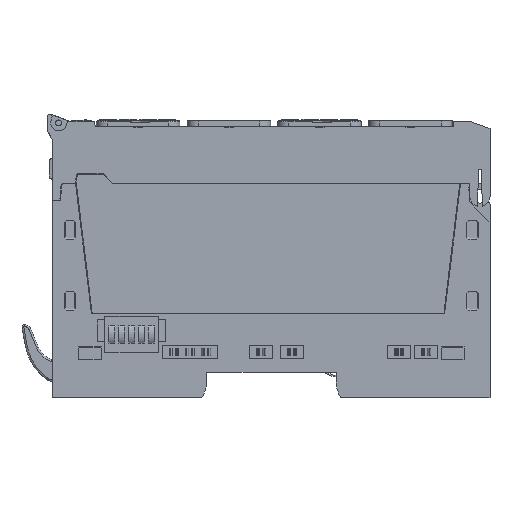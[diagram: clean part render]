
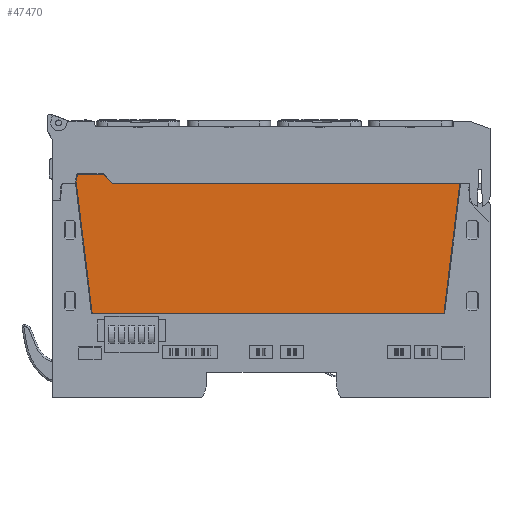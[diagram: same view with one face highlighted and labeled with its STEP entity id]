
A CAD part, top view. The second image highlights one B-rep face of the part: STEP entity #47470.
In plain terms, the highlighted planar face has unit normal (0, 0, 1).
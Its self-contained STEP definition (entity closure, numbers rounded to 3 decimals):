
#47410=AXIS2_PLACEMENT_3D('Plane Axis2P3D',#47407,#47408,#47409) ;
#47442=AXIS2_PLACEMENT_3D('Circle Axis2P3D',#47440,#47441,$) ;
#43610=CARTESIAN_POINT('Vertex',(47.15,16.1,11.5)) ;
#43613=CARTESIAN_POINT('Line Origine',(-0.9,16.1,11.5)) ;
#43617=CARTESIAN_POINT('Vertex',(-48.95,16.1,11.5)) ;
#47385=CARTESIAN_POINT('Vertex',(51.497,51.5,11.5)) ;
#47388=CARTESIAN_POINT('Line Origine',(49.323,33.8,11.5)) ;
#47407=CARTESIAN_POINT('Axis2P3D Location',(0.,0.,11.5)) ;
#47412=CARTESIAN_POINT('Line Origine',(-51.123,33.8,11.5)) ;
#47416=CARTESIAN_POINT('Vertex',(-53.297,51.5,11.5)) ;
#47419=CARTESIAN_POINT('Line Origine',(4.05,51.5,11.5)) ;
#47423=CARTESIAN_POINT('Vertex',(-43.396,51.5,11.5)) ;
#47426=CARTESIAN_POINT('Line Origine',(-44.684,52.8,11.5)) ;
#47430=CARTESIAN_POINT('Vertex',(-45.971,54.1,11.5)) ;
#47433=CARTESIAN_POINT('Line Origine',(-49.265,54.1,11.5)) ;
#47437=CARTESIAN_POINT('Vertex',(-52.558,54.1,11.5)) ;
#47440=CARTESIAN_POINT('Axis2P3D Location',(-52.558,53.6,11.5)) ;
#47444=CARTESIAN_POINT('Vertex',(-53.051,53.686,11.5)) ;
#47447=CARTESIAN_POINT('Line Origine',(-53.174,52.982,11.5)) ;
#47451=CARTESIAN_POINT('Vertex',(-53.297,52.277,11.5)) ;
#47454=CARTESIAN_POINT('Line Origine',(-53.297,51.889,11.5)) ;
#43614=DIRECTION('Vector Direction',(-1.,0.,0.)) ;
#47389=DIRECTION('Vector Direction',(0.122,0.993,0.)) ;
#47408=DIRECTION('Axis2P3D Direction',(0.,0.,1.)) ;
#47409=DIRECTION('Axis2P3D XDirection',(1.,0.,0.)) ;
#47413=DIRECTION('Vector Direction',(0.122,-0.993,0.)) ;
#47420=DIRECTION('Vector Direction',(1.,0.,0.)) ;
#47427=DIRECTION('Vector Direction',(-0.704,0.71,0.)) ;
#47434=DIRECTION('Vector Direction',(-1.,0.,0.)) ;
#47441=DIRECTION('Axis2P3D Direction',(0.,0.,1.)) ;
#47448=DIRECTION('Vector Direction',(-0.172,-0.985,0.)) ;
#47455=DIRECTION('Vector Direction',(0.,-1.,0.)) ;
#43615=VECTOR('Line Direction',#43614,1.) ;
#47390=VECTOR('Line Direction',#47389,1.) ;
#47414=VECTOR('Line Direction',#47413,1.) ;
#47421=VECTOR('Line Direction',#47420,1.) ;
#47428=VECTOR('Line Direction',#47427,1.) ;
#47435=VECTOR('Line Direction',#47434,1.) ;
#47449=VECTOR('Line Direction',#47448,1.) ;
#47456=VECTOR('Line Direction',#47455,1.) ;
#47460=ORIENTED_EDGE('',*,*,#47418,.T.) ;
#47461=ORIENTED_EDGE('',*,*,#43619,.T.) ;
#47462=ORIENTED_EDGE('',*,*,#47392,.T.) ;
#47463=ORIENTED_EDGE('',*,*,#47425,.T.) ;
#47464=ORIENTED_EDGE('',*,*,#47432,.T.) ;
#47465=ORIENTED_EDGE('',*,*,#47439,.T.) ;
#47466=ORIENTED_EDGE('',*,*,#47446,.T.) ;
#47467=ORIENTED_EDGE('',*,*,#47453,.T.) ;
#47468=ORIENTED_EDGE('',*,*,#47458,.T.) ;
#47470=ADVANCED_FACE('SP_UR20_EM.1\\SP_UR20_HO_EM.1\\ELGH_BASIC',(#47469),#47411,.T.) ;
#47443=CIRCLE('generated circle',#47442,0.5) ;
#43619=EDGE_CURVE('',#43618,#43611,#43616,.F.) ;
#47392=EDGE_CURVE('',#43611,#47386,#47391,.T.) ;
#47418=EDGE_CURVE('',#47417,#43618,#47415,.T.) ;
#47425=EDGE_CURVE('',#47386,#47424,#47422,.F.) ;
#47432=EDGE_CURVE('',#47424,#47431,#47429,.T.) ;
#47439=EDGE_CURVE('',#47431,#47438,#47436,.T.) ;
#47446=EDGE_CURVE('',#47438,#47445,#47443,.T.) ;
#47453=EDGE_CURVE('',#47445,#47452,#47450,.T.) ;
#47458=EDGE_CURVE('',#47452,#47417,#47457,.T.) ;
#47459=EDGE_LOOP('',(#47460,#47461,#47462,#47463,#47464,#47465,#47466,#47467,#47468)) ;
#47469=FACE_OUTER_BOUND('',#47459,.T.) ;
#43616=LINE('Line',#43613,#43615) ;
#47391=LINE('Line',#47388,#47390) ;
#47415=LINE('Line',#47412,#47414) ;
#47422=LINE('Line',#47419,#47421) ;
#47429=LINE('Line',#47426,#47428) ;
#47436=LINE('Line',#47433,#47435) ;
#47450=LINE('Line',#47447,#47449) ;
#47457=LINE('Line',#47454,#47456) ;
#47411=PLANE('',#47410) ;
#43611=VERTEX_POINT('',#43610) ;
#43618=VERTEX_POINT('',#43617) ;
#47386=VERTEX_POINT('',#47385) ;
#47417=VERTEX_POINT('',#47416) ;
#47424=VERTEX_POINT('',#47423) ;
#47431=VERTEX_POINT('',#47430) ;
#47438=VERTEX_POINT('',#47437) ;
#47445=VERTEX_POINT('',#47444) ;
#47452=VERTEX_POINT('',#47451) ;
